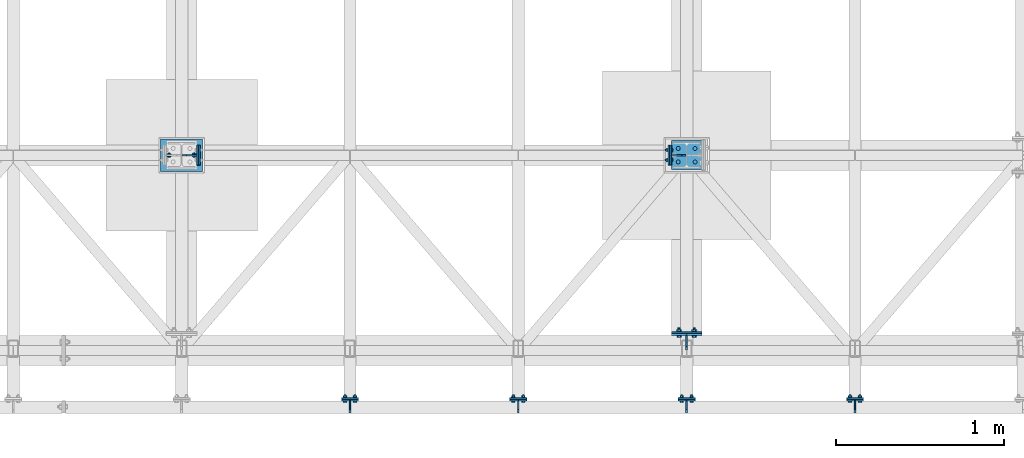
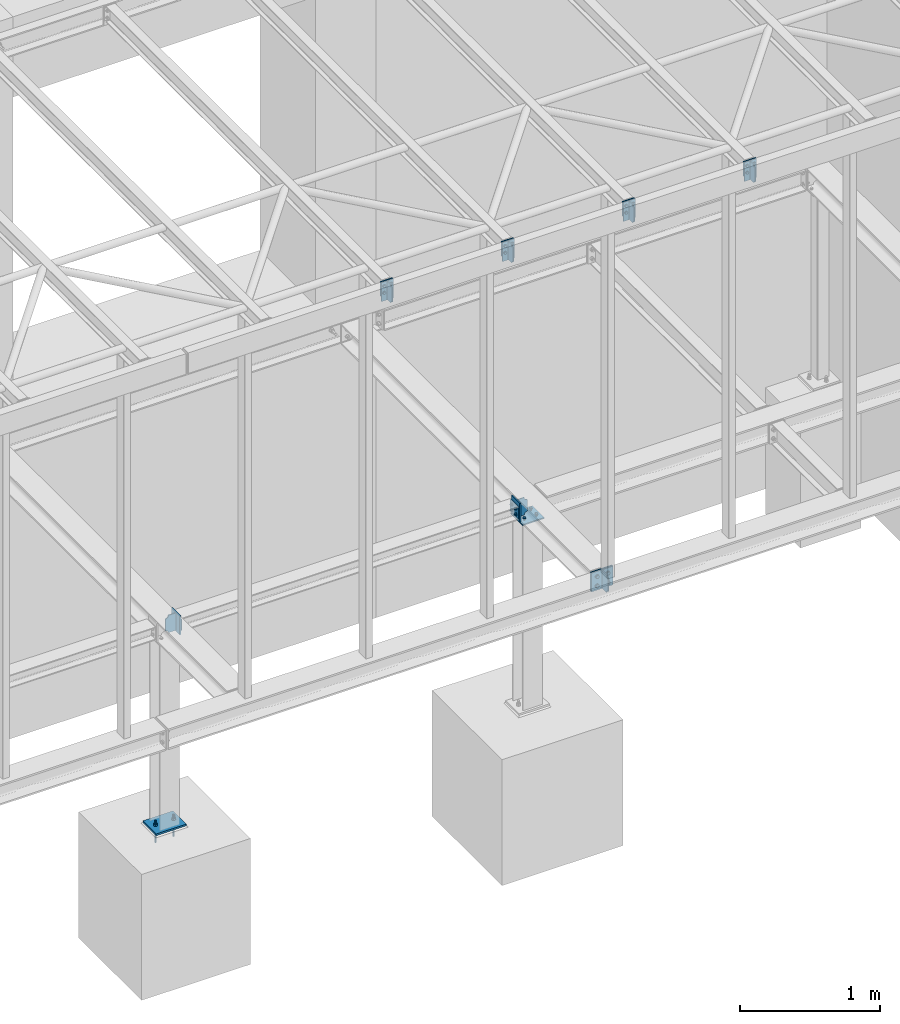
# One storey, part 17 of 23: 23 discrete accessories, 8 mechanical fasteners, 11 elements without a shape of their own.
"""IFC2X3 building model written with IfcOpenShell, lengths in millimetres."""

from ifc_helpers import new_model, si_unit, frame, frame_2d, origin_with_axes, origin_2d_with_axis, place, context, subcontext, project, spatial, polyline, circle_curve, parameter, trimmed, segment, composite_curve, circle, outline, extrude, source, transform, mapped, material, type_object, element, aggregate, save


model = new_model("IFC2X3")

# Units and contexts
model_context = context("Model", 3, precision=1e-05, world=origin_with_axes())
body_context = subcontext(model_context, "Body", "Model", "MODEL_VIEW")
ifc_project = project(units=[si_unit("LENGTHUNIT", "METRE", prefix="MILLI"), si_unit("AREAUNIT", "SQUARE_METRE"), si_unit("VOLUMEUNIT", "CUBIC_METRE"), si_unit("MASSUNIT", "GRAM", prefix="KILO"), si_unit("TIMEUNIT", "SECOND"), si_unit("PLANEANGLEUNIT", "RADIAN"), si_unit("SOLIDANGLEUNIT", "STERADIAN"), si_unit("THERMODYNAMICTEMPERATUREUNIT", "DEGREE_CELSIUS"), si_unit("LUMINOUSINTENSITYUNIT", "LUMEN")], contexts=[model_context])

# Site, building, storey
site_placement = place(None, origin_with_axes())
site = spatial("IfcSite", under=ifc_project, at=site_placement, Name="Undefined", CompositionType="ELEMENT")
building_placement = place(site_placement, origin_with_axes())
building = spatial("IfcBuilding", under=site, at=building_placement, Name="Undefined", CompositionType="ELEMENT")
storey_placement = place(building_placement, origin_with_axes())
storey = spatial("IfcBuildingStorey", under=building, at=storey_placement, Name="Undefined", CompositionType="ELEMENT", Elevation=0.0)

# Assembly, discrete accessory
assembly_1_placement = place(storey_placement, origin_with_axes())
assembly_1 = element("IfcElementAssembly", 1, at=assembly_1_placement, inside=storey, Name="Steel Assembly", AssemblyPlace="NOTDEFINED", PredefinedType="RIGID_FRAME")
ifc_material_1 = material(Name="STEEL/S235JR")
discrete_accessory_type_1 = type_object("IfcDiscreteAccessoryType", Name="PLECH")
discrete_accessory_1_placement = place(assembly_1_placement, frame((13050.0, -200.0, 3289.5), z_axis=(1.0, 0.0, 0.0), x_axis=(0.0, -1.0, 0.0)))
discrete_accessory_1 = element("IfcDiscreteAccessory", 2, at=discrete_accessory_1_placement, type_object=discrete_accessory_type_1, material=ifc_material_1, Name="PLECH", ObjectType="PL8*70", context=body_context, shape_type="SweptSolid", body=[
    extrude(outline(composite_curve([segment(polyline([(0.0, 0.0), (49.5, 0.0)]), True, "CONTINUOUS"), segment(trimmed(circle_curve(frame_2d((69.5, 0.0), x_axis=(-1.0, 0.0)), 20.0), [parameter(0.0)], [parameter(4.71238898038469)], False, "PARAMETER"), True, "CONTINUOUS"), segment(polyline([(69.5, 20.0), (69.5, 139.0)]), True, "CONTINUOUS"), segment(trimmed(circle_curve(frame_2d((69.5, 159.0), x_axis=(0.0, -1.0)), 20.0), [parameter(0.0)], [parameter(4.71238898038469)], False, "PARAMETER"), True, "CONTINUOUS"), segment(polyline([(49.5, 159.0), (0.0, 159.0), (0.0, 0.0)]), True, "DISCONTINUOUS")], self_intersect=False)), frame((0.0, 0.0, -4.0), z_axis=(0.0, 0.0, 1.0), x_axis=(1.0, 0.0, 0.0)), (0.0, 0.0, 1.0), 8.0),
])

assembly_2_placement = place(storey_placement, origin_with_axes())
assembly_2 = element("IfcElementAssembly", 3, at=assembly_2_placement, inside=storey, Name="Steel Assembly", AssemblyPlace="NOTDEFINED", PredefinedType="RIGID_FRAME")
discrete_accessory_2_placement = place(assembly_2_placement, frame((13000.0, -185.0, 3166.5), z_axis=(0.0, 1.0, 0.0), x_axis=(0.0, 0.0, 1.0)))
discrete_accessory_2 = element("IfcDiscreteAccessory", 4, at=discrete_accessory_2_placement, type_object=discrete_accessory_type_1, material=ifc_material_1, Name="PLECH", ObjectType="PL10*100", context=body_context, shape_type="SweptSolid", body=[
    extrude(outline(polyline([(0.0, 0.0), (127.0, 0.0), (127.0, 100.0), (-9.09494701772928e-13, 100.0), (0.0, 0.0)])), frame((0.0, 0.0, -5.0), z_axis=(0.0, 0.0, 1.0), x_axis=(1.0, 0.0, 0.0)), (0.0, 0.0, 1.0), 10.0),
])
aggregate(assembly_2, [discrete_accessory_2])

# Discrete accessory
discrete_accessory_3_placement = place(assembly_1_placement, frame((13000.0, -195.0, 3127.5), z_axis=(0.0, 1.0, 0.0), x_axis=(0.0, 0.0, 1.0)))
discrete_accessory_3 = element("IfcDiscreteAccessory", 5, at=discrete_accessory_3_placement, type_object=discrete_accessory_type_1, material=ifc_material_1, Name="PLECH", ObjectType="PL10*100", context=body_context, shape_type="SweptSolid", body=[
    extrude(outline(polyline([(0.0, 0.0), (166.000015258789, 0.0), (166.000015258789, 100.0), (-9.09494701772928e-13, 100.0), (0.0, 0.0)])), frame((0.0, 0.0, -5.0), z_axis=(0.0, 0.0, 1.0), x_axis=(1.0, 0.0, 0.0)), (0.0, 0.0, 1.0), 10.0),
])

discrete_accessory_4_placement = place(assembly_1_placement, frame((12050.0, -200.0, 3289.5), z_axis=(1.0, 0.0, 0.0), x_axis=(0.0, -1.0, 0.0)))
discrete_accessory_4 = element("IfcDiscreteAccessory", 6, at=discrete_accessory_4_placement, type_object=discrete_accessory_type_1, material=ifc_material_1, Name="PLECH", ObjectType="PL8*70", context=body_context, shape_type="SweptSolid", body=[
    extrude(outline(composite_curve([segment(polyline([(0.0, 0.0), (49.5, 0.0)]), True, "CONTINUOUS"), segment(trimmed(circle_curve(frame_2d((69.5, 0.0), x_axis=(-1.0, 0.0)), 20.0), [parameter(0.0)], [parameter(4.71238898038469)], False, "PARAMETER"), True, "CONTINUOUS"), segment(polyline([(69.5, 20.0), (69.5, 139.0)]), True, "CONTINUOUS"), segment(trimmed(circle_curve(frame_2d((69.5, 159.0), x_axis=(0.0, -1.0)), 20.0), [parameter(0.0)], [parameter(4.71238898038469)], False, "PARAMETER"), True, "CONTINUOUS"), segment(polyline([(49.5, 159.0), (0.0, 159.0), (0.0, 0.0)]), True, "DISCONTINUOUS")], self_intersect=False)), frame((0.0, 0.0, -4.0), z_axis=(0.0, 0.0, 1.0), x_axis=(1.0, 0.0, 0.0)), (0.0, 0.0, 1.0), 8.0),
])

# Assembly, discrete accessory
assembly_3_placement = place(storey_placement, origin_with_axes())
assembly_3 = element("IfcElementAssembly", 7, at=assembly_3_placement, inside=storey, Name="Steel Assembly", AssemblyPlace="NOTDEFINED", PredefinedType="RIGID_FRAME")
discrete_accessory_5_placement = place(assembly_3_placement, frame((12000.0, -185.0, 3166.5), z_axis=(0.0, 1.0, 0.0), x_axis=(0.0, 0.0, 1.0)))
discrete_accessory_5 = element("IfcDiscreteAccessory", 8, at=discrete_accessory_5_placement, type_object=discrete_accessory_type_1, material=ifc_material_1, Name="PLECH", ObjectType="PL10*100", context=body_context, shape_type="SweptSolid", body=[
    extrude(outline(polyline([(0.0, 0.0), (127.0, 0.0), (127.0, 100.0), (-9.09494701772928e-13, 100.0), (0.0, 0.0)])), frame((0.0, 0.0, -5.0), z_axis=(0.0, 0.0, 1.0), x_axis=(1.0, 0.0, 0.0)), (0.0, 0.0, 1.0), 10.0),
])
aggregate(assembly_3, [discrete_accessory_5])

# Discrete accessory
discrete_accessory_6_placement = place(assembly_1_placement, frame((12000.0, -195.0, 3127.5), z_axis=(0.0, 1.0, 0.0), x_axis=(0.0, 0.0, 1.0)))
discrete_accessory_6 = element("IfcDiscreteAccessory", 9, at=discrete_accessory_6_placement, type_object=discrete_accessory_type_1, material=ifc_material_1, Name="PLECH", ObjectType="PL10*100", context=body_context, shape_type="SweptSolid", body=[
    extrude(outline(polyline([(0.0, 0.0), (166.000015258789, 0.0), (166.000015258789, 100.0), (-9.09494701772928e-13, 100.0), (0.0, 0.0)])), frame((0.0, 0.0, -5.0), z_axis=(0.0, 0.0, 1.0), x_axis=(1.0, 0.0, 0.0)), (0.0, 0.0, 1.0), 10.0),
])

discrete_accessory_7_placement = place(assembly_1_placement, frame((11050.0, -200.0, 3289.5), z_axis=(1.0, 0.0, 0.0), x_axis=(0.0, -1.0, 0.0)))
discrete_accessory_7 = element("IfcDiscreteAccessory", 10, at=discrete_accessory_7_placement, type_object=discrete_accessory_type_1, material=ifc_material_1, Name="PLECH", ObjectType="PL8*70", context=body_context, shape_type="SweptSolid", body=[
    extrude(outline(composite_curve([segment(polyline([(0.0, 0.0), (49.5, 0.0)]), True, "CONTINUOUS"), segment(trimmed(circle_curve(frame_2d((69.5, 0.0), x_axis=(-1.0, 0.0)), 20.0), [parameter(0.0)], [parameter(4.71238898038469)], False, "PARAMETER"), True, "CONTINUOUS"), segment(polyline([(69.5, 20.0), (69.5, 139.0)]), True, "CONTINUOUS"), segment(trimmed(circle_curve(frame_2d((69.5, 159.0), x_axis=(0.0, -1.0)), 20.0), [parameter(0.0)], [parameter(4.71238898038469)], False, "PARAMETER"), True, "CONTINUOUS"), segment(polyline([(49.5, 159.0), (0.0, 159.0), (0.0, 0.0)]), True, "DISCONTINUOUS")], self_intersect=False)), frame((0.0, 0.0, -4.0), z_axis=(0.0, 0.0, 1.0), x_axis=(1.0, 0.0, 0.0)), (0.0, 0.0, 1.0), 8.0),
])

# Assembly, discrete accessory
assembly_4_placement = place(storey_placement, origin_with_axes())
assembly_4 = element("IfcElementAssembly", 11, at=assembly_4_placement, inside=storey, Name="Steel Assembly", AssemblyPlace="NOTDEFINED", PredefinedType="RIGID_FRAME")
discrete_accessory_8_placement = place(assembly_4_placement, frame((11000.0, -185.0, 3166.5), z_axis=(0.0, 1.0, 0.0), x_axis=(0.0, 0.0, 1.0)))
discrete_accessory_8 = element("IfcDiscreteAccessory", 12, at=discrete_accessory_8_placement, type_object=discrete_accessory_type_1, material=ifc_material_1, Name="PLECH", ObjectType="PL10*100", context=body_context, shape_type="SweptSolid", body=[
    extrude(outline(polyline([(0.0, 0.0), (127.0, 0.0), (127.0, 100.0), (-9.09494701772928e-13, 100.0), (0.0, 0.0)])), frame((0.0, 0.0, -5.0), z_axis=(0.0, 0.0, 1.0), x_axis=(1.0, 0.0, 0.0)), (0.0, 0.0, 1.0), 10.0),
])
aggregate(assembly_4, [discrete_accessory_8])

# Discrete accessory
discrete_accessory_9_placement = place(assembly_1_placement, frame((11000.0, -195.0, 3127.5), z_axis=(0.0, 1.0, 0.0), x_axis=(0.0, 0.0, 1.0)))
discrete_accessory_9 = element("IfcDiscreteAccessory", 13, at=discrete_accessory_9_placement, type_object=discrete_accessory_type_1, material=ifc_material_1, Name="PLECH", ObjectType="PL10*100", context=body_context, shape_type="SweptSolid", body=[
    extrude(outline(polyline([(0.0, 0.0), (166.000015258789, 0.0), (166.000015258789, 100.0), (-9.09494701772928e-13, 100.0), (0.0, 0.0)])), frame((0.0, 0.0, -5.0), z_axis=(0.0, 0.0, 1.0), x_axis=(1.0, 0.0, 0.0)), (0.0, 0.0, 1.0), 10.0),
])

discrete_accessory_10_placement = place(assembly_1_placement, frame((10050.0, -200.0, 3289.5), z_axis=(1.0, 0.0, 0.0), x_axis=(0.0, -1.0, 0.0)))
discrete_accessory_10 = element("IfcDiscreteAccessory", 14, at=discrete_accessory_10_placement, type_object=discrete_accessory_type_1, material=ifc_material_1, Name="PLECH", ObjectType="PL8*70", context=body_context, shape_type="SweptSolid", body=[
    extrude(outline(composite_curve([segment(polyline([(0.0, 0.0), (49.5, 0.0)]), True, "CONTINUOUS"), segment(trimmed(circle_curve(frame_2d((69.5, 0.0), x_axis=(-1.0, 0.0)), 20.0), [parameter(0.0)], [parameter(4.71238898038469)], False, "PARAMETER"), True, "CONTINUOUS"), segment(polyline([(69.5, 20.0), (69.5, 139.0)]), True, "CONTINUOUS"), segment(trimmed(circle_curve(frame_2d((69.5, 159.0), x_axis=(0.0, -1.0)), 20.0), [parameter(0.0)], [parameter(4.71238898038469)], False, "PARAMETER"), True, "CONTINUOUS"), segment(polyline([(49.5, 159.0), (0.0, 159.0), (0.0, 0.0)]), True, "DISCONTINUOUS")], self_intersect=False)), frame((0.0, 0.0, -4.0), z_axis=(0.0, 0.0, 1.0), x_axis=(1.0, 0.0, 0.0)), (0.0, 0.0, 1.0), 8.0),
])

# Assembly, discrete accessory
assembly_5_placement = place(storey_placement, origin_with_axes())
assembly_5 = element("IfcElementAssembly", 15, at=assembly_5_placement, inside=storey, Name="Steel Assembly", AssemblyPlace="NOTDEFINED", PredefinedType="RIGID_FRAME")
discrete_accessory_11_placement = place(assembly_5_placement, frame((10000.0, -185.0, 3166.5), z_axis=(0.0, 1.0, 0.0), x_axis=(0.0, 0.0, 1.0)))
discrete_accessory_11 = element("IfcDiscreteAccessory", 16, at=discrete_accessory_11_placement, type_object=discrete_accessory_type_1, material=ifc_material_1, Name="PLECH", ObjectType="PL10*100", context=body_context, shape_type="SweptSolid", body=[
    extrude(outline(polyline([(0.0, 0.0), (127.0, 0.0), (127.0, 100.0), (-9.09494701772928e-13, 100.0), (0.0, 0.0)])), frame((0.0, 0.0, -5.0), z_axis=(0.0, 0.0, 1.0), x_axis=(1.0, 0.0, 0.0)), (0.0, 0.0, 1.0), 10.0),
])
aggregate(assembly_5, [discrete_accessory_11])

# Discrete accessory
discrete_accessory_12_placement = place(assembly_1_placement, frame((10000.0, -195.0, 3127.5), z_axis=(0.0, 1.0, 0.0), x_axis=(0.0, 0.0, 1.0)))
discrete_accessory_12 = element("IfcDiscreteAccessory", 17, at=discrete_accessory_12_placement, type_object=discrete_accessory_type_1, material=ifc_material_1, Name="PLECH", ObjectType="PL10*100", context=body_context, shape_type="SweptSolid", body=[
    extrude(outline(polyline([(0.0, 0.0), (166.000015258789, 0.0), (166.000015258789, 100.0), (-9.09494701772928e-13, 100.0), (0.0, 0.0)])), frame((0.0, 0.0, -5.0), z_axis=(0.0, 0.0, 1.0), x_axis=(1.0, 0.0, 0.0)), (0.0, 0.0, 1.0), 10.0),
])

# Assembly, discrete accessory
assembly_6_placement = place(storey_placement, origin_with_axes())
assembly_6 = element("IfcElementAssembly", 18, at=assembly_6_placement, inside=storey, Name="Steel Assembly", AssemblyPlace="NOTDEFINED", PredefinedType="RIGID_FRAME")
discrete_accessory_13_placement = place(assembly_6_placement, frame((12140.0, 1346.0, -345.0), z_axis=(0.0, 0.0, 1.0), x_axis=(-1.0, 0.0, 0.0)))
discrete_accessory_13 = element("IfcDiscreteAccessory", 19, at=discrete_accessory_13_placement, type_object=discrete_accessory_type_1, material=ifc_material_1, Name="PLECH", ObjectType="PL10*172", context=body_context, shape_type="SweptSolid", body=[
    extrude(outline(polyline([(0.0, 0.0), (180.0, 0.0), (180.0, 172.0), (0.0, 172.0), (0.0, 0.0)])), frame((0.0, 0.0, -5.0), z_axis=(0.0, 0.0, 1.0), x_axis=(1.0, 0.0, 0.0)), (0.0, 0.0, 1.0), 10.0),
])

# Assembly, discrete accessories
assembly_7_placement = place(storey_placement, origin_with_axes())
assembly_7 = element("IfcElementAssembly", 20, at=assembly_7_placement, inside=storey, Name="Steel Assembly", AssemblyPlace="NOTDEFINED", PredefinedType="RIGID_FRAME")
discrete_accessory_14_placement = place(assembly_7_placement, frame((11960.0, 195.0, -168.0), z_axis=(0.0, 1.0, 0.0), x_axis=(1.0, 0.0, 0.0)))
discrete_accessory_14 = element("IfcDiscreteAccessory", 21, at=discrete_accessory_14_placement, type_object=discrete_accessory_type_1, material=ifc_material_1, Name="PLECH", ObjectType="PL10*164", context=body_context, shape_type="SweptSolid", body=[
    extrude(outline(polyline([(0.0, 0.0), (180.0, 0.0), (180.0, 164.0), (0.0, 164.0), (0.0, 0.0)])), frame((0.0, 0.0, -5.0), z_axis=(0.0, 0.0, 1.0), x_axis=(1.0, 0.0, 0.0)), (0.0, 0.0, 1.0), 10.0),
])
discrete_accessory_15_placement = place(assembly_7_placement, frame((12050.0, 190.0, -174.0), z_axis=(1.0, 0.0, 0.0), x_axis=(0.0, -1.0, 0.0)))
discrete_accessory_15 = element("IfcDiscreteAccessory", 22, at=discrete_accessory_15_placement, type_object=discrete_accessory_type_1, material=ifc_material_1, Name="PLECH", ObjectType="PL8*86", context=body_context, shape_type="SweptSolid", body=[
    extrude(outline(composite_curve([segment(polyline([(0.0, 0.0), (65.75, 0.0)]), True, "CONTINUOUS"), segment(trimmed(circle_curve(frame_2d((85.75, 0.0), x_axis=(-1.0, 0.0)), 20.0), [parameter(0.0)], [parameter(4.71238898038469)], False, "PARAMETER"), True, "CONTINUOUS"), segment(polyline([(85.75, 20.0), (85.75, 132.0)]), True, "CONTINUOUS"), segment(trimmed(circle_curve(frame_2d((85.75, 152.0), x_axis=(0.0, -1.0)), 20.0), [parameter(0.0)], [parameter(4.71238898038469)], False, "PARAMETER"), True, "CONTINUOUS"), segment(polyline([(65.75, 152.0), (0.0, 152.0), (0.0, 0.0)]), True, "DISCONTINUOUS")], self_intersect=False)), frame((0.0, 0.0, -4.0), z_axis=(0.0, 0.0, 1.0), x_axis=(1.0, 0.0, 0.0)), (0.0, 0.0, 1.0), 8.0),
])

assembly_8_placement = place(storey_placement, origin_with_axes())
assembly_8 = element("IfcElementAssembly", 23, at=assembly_8_placement, inside=storey, Name="Steel Assembly", AssemblyPlace="NOTDEFINED", PredefinedType="RIGID_FRAME")
discrete_accessory_16_placement = place(assembly_8_placement, frame((11960.0, 205.0, -168.0), z_axis=(0.0, 1.0, 0.0), x_axis=(1.0, 0.0, 0.0)))
discrete_accessory_16 = element("IfcDiscreteAccessory", 24, at=discrete_accessory_16_placement, type_object=discrete_accessory_type_1, material=ifc_material_1, Name="PLECH", ObjectType="PL10*164", context=body_context, shape_type="SweptSolid", body=[
    extrude(outline(polyline([(0.0, 0.0), (180.0, 0.0), (180.0, 164.0), (0.0, 164.0), (0.0, 0.0)])), frame((0.0, 0.0, -5.0), z_axis=(0.0, 0.0, 1.0), x_axis=(1.0, 0.0, 0.0)), (0.0, 0.0, 1.0), 10.0),
])
discrete_accessory_17_placement = place(assembly_8_placement, frame((11960.0, 1260.0, -174.0), z_axis=(0.0, 1.0, 0.0), x_axis=(1.0, 0.0, 0.0)))
discrete_accessory_17 = element("IfcDiscreteAccessory", 25, at=discrete_accessory_17_placement, type_object=discrete_accessory_type_1, material=ifc_material_1, Name="PLECH", ObjectType="PL8*86", context=body_context, shape_type="SweptSolid", body=[
    extrude(outline(composite_curve([segment(polyline([(0.0, 0.0), (60.5, 0.0)]), True, "CONTINUOUS"), segment(trimmed(circle_curve(frame_2d((85.5, 0.0), x_axis=(-1.0, 0.0)), 25.0), [parameter(0.0)], [parameter(4.71238898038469)], False, "PARAMETER"), True, "CONTINUOUS"), segment(polyline([(85.5, 25.0), (85.5, 127.0)]), True, "CONTINUOUS"), segment(trimmed(circle_curve(frame_2d((85.5, 152.0), x_axis=(0.0, -1.0)), 25.0), [parameter(0.0)], [parameter(4.71238898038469)], False, "PARAMETER"), True, "CONTINUOUS"), segment(polyline([(60.5, 152.0), (0.0, 152.0), (0.0, 0.0)]), True, "DISCONTINUOUS")], self_intersect=False)), frame((0.0, 0.0, -4.0), z_axis=(0.0, 0.0, 1.0), x_axis=(1.0, 0.0, 0.0)), (0.0, 0.0, 1.0), 8.0),
])

# Assembly, discrete accessory
assembly_9_placement = place(storey_placement, origin_with_axes())
assembly_9 = element("IfcElementAssembly", 26, at=assembly_9_placement, inside=storey, Name="Steel Assembly", AssemblyPlace="NOTDEFINED", PredefinedType="RIGID_FRAME")
discrete_accessory_18_placement = place(assembly_9_placement, frame((9155.0, 1200.0, -299.0), z_axis=(-1.0, 0.0, 0.0), x_axis=(0.0, 0.0, 1.0)))
discrete_accessory_18 = element("IfcDiscreteAccessory", 27, at=discrete_accessory_18_placement, type_object=discrete_accessory_type_1, material=ifc_material_1, Name="PLECH", ObjectType="PL10*98", context=body_context, shape_type="SweptSolid", body=[
    extrude(outline(polyline([(0.0, 0.0), (98.0, 4.54747350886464e-13), (98.0, 120.0), (0.0, 120.0), (0.0, 0.0)])), frame((0.0, 0.0, -5.0), z_axis=(0.0, 0.0, 1.0), x_axis=(1.0, 0.0, 0.0)), (0.0, 0.0, 1.0), 10.0),
])

# Assembly, discrete accessories
assembly_10_placement = place(storey_placement, origin_with_axes())
assembly_10 = element("IfcElementAssembly", 28, at=assembly_10_placement, inside=storey, Name="Steel Assembly", AssemblyPlace="NOTDEFINED", PredefinedType="RIGID_FRAME")
discrete_accessory_19_placement = place(assembly_10_placement, frame((9140.0, 1260.0, -174.0), z_axis=(0.0, -1.0, 0.0), x_axis=(-1.0, 0.0, 0.0)))
discrete_accessory_19 = element("IfcDiscreteAccessory", 29, at=discrete_accessory_19_placement, type_object=discrete_accessory_type_1, material=ifc_material_1, Name="PLECH", ObjectType="PL8*86", context=body_context, shape_type="SweptSolid", body=[
    extrude(outline(composite_curve([segment(polyline([(0.0, 0.0), (60.5, 0.0)]), True, "CONTINUOUS"), segment(trimmed(circle_curve(frame_2d((85.5, 0.0), x_axis=(-1.0, 0.0)), 25.0), [parameter(0.0)], [parameter(4.71238898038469)], False, "PARAMETER"), True, "CONTINUOUS"), segment(polyline([(85.5, 25.0), (85.5, 127.0)]), True, "CONTINUOUS"), segment(trimmed(circle_curve(frame_2d((85.5, 152.0), x_axis=(0.0, -1.0)), 25.0), [parameter(0.0)], [parameter(4.71238898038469)], False, "PARAMETER"), True, "CONTINUOUS"), segment(polyline([(60.5, 152.0), (0.0, 152.0), (0.0, 0.0)]), True, "DISCONTINUOUS")], self_intersect=False)), frame((0.0, 0.0, -4.0), z_axis=(0.0, 0.0, 1.0), x_axis=(1.0, 0.0, 0.0)), (0.0, 0.0, 1.0), 8.0),
])
discrete_accessory_20_placement = place(assembly_10_placement, frame((9145.0, 1200.0, -332.0), z_axis=(-1.0, 0.0, 0.0), x_axis=(0.0, 0.0, 1.0)))
discrete_accessory_20 = element("IfcDiscreteAccessory", 30, at=discrete_accessory_20_placement, type_object=discrete_accessory_type_1, material=ifc_material_1, Name="PLECH", ObjectType="PL10*120", context=body_context, shape_type="SweptSolid", body=[
    extrude(outline(polyline([(0.0, 0.0), (164.0, 4.54747350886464e-13), (164.0, 120.0), (0.0, 120.0), (0.0, 0.0)])), frame((0.0, 0.0, -5.0), z_axis=(0.0, 0.0, 1.0), x_axis=(1.0, 0.0, 0.0)), (0.0, 0.0, 1.0), 10.0),
])
aggregate(assembly_10, [discrete_accessory_19, discrete_accessory_20])

# Discrete accessory
discrete_accessory_21_placement = place(assembly_9_placement, frame((11945.0, 1200.0, -299.0), z_axis=(-1.0, 0.0, 0.0), x_axis=(0.0, 0.0, 1.0)))
discrete_accessory_21 = element("IfcDiscreteAccessory", 31, at=discrete_accessory_21_placement, type_object=discrete_accessory_type_1, material=ifc_material_1, Name="PLECH", ObjectType="PL10*98", context=body_context, shape_type="SweptSolid", body=[
    extrude(outline(polyline([(0.0, 0.0), (98.0, 4.54747350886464e-13), (98.0, 120.0), (0.0, 120.0), (0.0, 0.0)])), frame((0.0, 0.0, -5.0), z_axis=(0.0, 0.0, 1.0), x_axis=(1.0, 0.0, 0.0)), (0.0, 0.0, 1.0), 10.0),
])

aggregate(assembly_9, [discrete_accessory_18, discrete_accessory_21])

discrete_accessory_22_placement = place(assembly_8_placement, frame((11955.0, 1200.0, -332.0), z_axis=(-1.0, 0.0, 0.0), x_axis=(0.0, 0.0, 1.0)))
discrete_accessory_22 = element("IfcDiscreteAccessory", 32, at=discrete_accessory_22_placement, type_object=discrete_accessory_type_1, material=ifc_material_1, Name="PLECH", ObjectType="PL10*120", context=body_context, shape_type="SweptSolid", body=[
    extrude(outline(polyline([(0.0, 0.0), (164.0, 4.54747350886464e-13), (164.0, 120.0), (0.0, 120.0), (0.0, 0.0)])), frame((0.0, 0.0, -5.0), z_axis=(0.0, 0.0, 1.0), x_axis=(1.0, 0.0, 0.0)), (0.0, 0.0, 1.0), 10.0),
])

# Assembly, discrete accessory, mechanical fastener
assembly_11_placement = place(storey_placement, origin_with_axes())
assembly_11 = element("IfcElementAssembly", 33, at=assembly_11_placement, inside=storey, Name="Steel Assembly", AssemblyPlace="NOTDEFINED", PredefinedType="RIGID_FRAME")
discrete_accessory_23_placement = place(assembly_11_placement, frame((9175.0, 1356.0, -1982.5), z_axis=(0.0, 0.0, 1.0), x_axis=(-1.0, 0.0, 0.0)))
discrete_accessory_23 = element("IfcDiscreteAccessory", 34, at=discrete_accessory_23_placement, type_object=discrete_accessory_type_1, material=ifc_material_1, Name="PLECH", ObjectType="PL15*192", context=body_context, shape_type="SweptSolid", body=[
    extrude(outline(polyline([(0.0, 0.0), (250.0, 0.0), (250.0, 192.0), (0.0, 192.0), (0.0, 0.0)])), frame((0.0, 0.0, -7.5), z_axis=(0.0, 0.0, 1.0), x_axis=(1.0, 0.0, 0.0)), (0.0, 0.0, 1.0), 15.0),
])
ifc_material_2 = material(Name="Undefined")
discrete_accessory_type_2 = type_object("IfcDiscreteAccessoryType", Name="Bolt assembly")
shared_shape_1 = source(origin_with_axes(), body_context, "Body", "SweptSolid", [
    extrude(circle(Radius=9.0, at=origin_2d_with_axis()), frame((0.0, -15.0, 0.0), z_axis=(0.0, 1.0, 0.0), x_axis=(1.0, 0.0, 0.0)), (0.0, 0.0, 1.0), 15.1),
    extrude(outline(polyline([(7.73649338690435, 0.0), (3.86824669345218, 6.69999980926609), (-3.86824669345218, 6.69999980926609), (-7.73649338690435, 0.0), (-3.86824669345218, -6.69999980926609), (3.86824669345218, -6.69999980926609), (7.73649338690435, 0.0)])), frame((0.0, -147.0, 0.0), z_axis=(0.0, 1.0, 0.0), x_axis=(1.0, 0.0, 0.0)), (0.0, 0.0, 1.0), 132.0),
    extrude(circle(Radius=8.0, at=origin_2d_with_axis()), frame((0.0, -15.0, 0.0), z_axis=(0.0, 1.0, 0.0), x_axis=(1.0, 0.0, 0.0)), (0.0, 0.0, 1.0), 58.0),
    extrude(circle(Radius=15.0, at=origin_2d_with_axis()), frame((0.0, 0.0, 0.0), z_axis=(0.0, 1.0, 0.0), x_axis=(1.0, 0.0, 0.0)), (0.0, 0.0, 1.0), 3.0),
    extrude(outline(polyline([(15.4441197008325, 0.0), (7.72205985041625, 13.3750000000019), (-7.72205985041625, 13.3750000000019), (-15.4441197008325, 0.0), (-7.72205985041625, -13.3750000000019), (7.72205985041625, -13.3750000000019), (15.4441197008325, 0.0)])), frame((0.0, 3.0, 0.0), z_axis=(0.0, 1.0, 0.0), x_axis=(1.0, 0.0, 0.0)), (0.0, 0.0, 1.0), 13.0),
])
mechanical_fastener_1_placement = place(assembly_11_placement, frame((8975.0, 1260.0, -1975.0), z_axis=(0.0, -1.0, 0.0), x_axis=(1.0, 0.0, 0.0)))
mechanical_fastener_1 = element("IfcMechanicalFastener", 35, at=mechanical_fastener_1_placement, type_object=discrete_accessory_type_2, material=ifc_material_2, Name="Bolt assembly", NominalDiameter=16.0, NominalLength=58.0, context=body_context, shape_type="MappedRepresentation", body=[
    mapped(shared_shape_1, transform((0.0, 0.0, 0.0))),
    mapped(shared_shape_1, transform((150.0, 0.0, 0.0))),
])
aggregate(assembly_11, [mechanical_fastener_1, discrete_accessory_23])

# Mechanical fastener
shared_shape_2 = source(origin_with_axes(), body_context, "Body", "SweptSolid", [
    extrude(circle(Radius=9.0, at=origin_2d_with_axis()), frame((0.0, -0.1, 0.0), z_axis=(0.0, 1.0, 0.0), x_axis=(1.0, 0.0, 0.0)), (0.0, 0.0, 1.0), 10.1),
    extrude(circle(Radius=9.0, at=origin_2d_with_axis()), frame((0.0, -9.9, 0.0), z_axis=(0.0, 1.0, 0.0), x_axis=(1.0, 0.0, 0.0)), (0.0, 0.0, 1.0), 10.0),
    extrude(outline(polyline([(13.85640646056, 0.0), (6.92820323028, 12.0000000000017), (-6.92820323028, 12.0000000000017), (-13.85640646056, 0.0), (-6.92820323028, -12.0000000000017), (6.92820323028, -12.0000000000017), (13.85640646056, 0.0)])), frame((0.0, -23.0, 0.0), z_axis=(0.0, 1.0, 0.0), x_axis=(1.0, 0.0, 0.0)), (0.0, 0.0, 1.0), 10.0),
    extrude(circle(Radius=8.0, at=origin_2d_with_axis()), frame((0.0, -13.0, 0.0), z_axis=(0.0, 1.0, 0.0), x_axis=(1.0, 0.0, 0.0)), (0.0, 0.0, 1.0), 50.0),
    extrude(circle(Radius=15.0, at=origin_2d_with_axis()), frame((0.0, -13.0, 0.0), z_axis=(0.0, 1.0, 0.0), x_axis=(1.0, 0.0, 0.0)), (0.0, 0.0, 1.0), 3.0),
    extrude(circle(Radius=15.0, at=origin_2d_with_axis()), frame((0.0, 10.0, 0.0), z_axis=(0.0, 1.0, 0.0), x_axis=(1.0, 0.0, 0.0)), (0.0, 0.0, 1.0), 3.0),
    extrude(outline(polyline([(15.4441197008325, 0.0), (7.72205985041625, 13.3750000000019), (-7.72205985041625, 13.3750000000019), (-15.4441197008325, 0.0), (-7.72205985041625, -13.3750000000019), (7.72205985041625, -13.3750000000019), (15.4441197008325, 0.0)])), frame((0.0, 13.0, 0.0), z_axis=(0.0, 1.0, 0.0), x_axis=(1.0, 0.0, 0.0)), (0.0, 0.0, 1.0), 13.0),
])
mechanical_fastener_2_placement = place(assembly_7_placement, frame((12005.0, 200.0, -250.0), z_axis=(0.0, 0.0, 1.0), x_axis=(1.0, 0.0, 0.0)))
mechanical_fastener_2 = element("IfcMechanicalFastener", 36, at=mechanical_fastener_2_placement, type_object=discrete_accessory_type_2, material=ifc_material_2, Name="Bolt assembly", NominalDiameter=16.0, NominalLength=50.0, context=body_context, shape_type="MappedRepresentation", body=[
    mapped(shared_shape_2, transform((0.0, 0.0, -40.0))),
    mapped(shared_shape_2, transform((90.0, 0.0, -40.0))),
    mapped(shared_shape_2, transform((0.0, 0.0, 40.0))),
    mapped(shared_shape_2, transform((90.0, 0.0, 40.0))),
])

aggregate(assembly_7, [mechanical_fastener_2, discrete_accessory_14, discrete_accessory_15])

shared_shape_3 = source(origin_with_axes(), body_context, "Body", "SweptSolid", [
    extrude(circle(Radius=6.5, at=origin_2d_with_axis()), frame((0.0, -13.9, 0.0), z_axis=(0.0, 1.0, 0.0), x_axis=(1.0, 0.0, 0.0)), (0.0, 0.0, 1.0), 14.0),
    extrude(circle(Radius=6.5, at=origin_2d_with_axis()), frame((0.0, -0.1, 0.0), z_axis=(0.0, 1.0, 0.0), x_axis=(1.0, 0.0, 0.0)), (0.0, 0.0, 1.0), 10.1),
    extrude(outline(polyline([(10.39230484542, 0.0), (5.19615242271, 9.00000000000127), (-5.19615242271, 9.00000000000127), (-10.39230484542, 0.0), (-5.19615242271, -9.00000000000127), (5.19615242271, -9.00000000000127), (10.39230484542, 0.0)])), frame((0.0, -24.0, 0.0), z_axis=(0.0, 1.0, 0.0), x_axis=(1.0, 0.0, 0.0)), (0.0, 0.0, 1.0), 7.5),
    extrude(circle(Radius=6.0, at=origin_2d_with_axis()), frame((0.0, -16.5, 0.0), z_axis=(0.0, 1.0, 0.0), x_axis=(1.0, 0.0, 0.0)), (0.0, 0.0, 1.0), 45.0),
    extrude(circle(Radius=12.0, at=origin_2d_with_axis()), frame((0.0, -16.5, 0.0), z_axis=(0.0, 1.0, 0.0), x_axis=(1.0, 0.0, 0.0)), (0.0, 0.0, 1.0), 2.5),
    extrude(circle(Radius=12.0, at=origin_2d_with_axis()), frame((0.0, 10.0, 0.0), z_axis=(0.0, 1.0, 0.0), x_axis=(1.0, 0.0, 0.0)), (0.0, 0.0, 1.0), 2.5),
    extrude(outline(polyline([(10.96965511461, 0.0), (5.484827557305, 9.50000000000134), (-5.484827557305, 9.50000000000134), (-10.96965511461, 0.0), (-5.484827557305, -9.50000000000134), (5.484827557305, -9.50000000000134), (10.96965511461, 0.0)])), frame((0.0, 12.5, 0.0), z_axis=(0.0, 1.0, 0.0), x_axis=(1.0, 0.0, 0.0)), (0.0, 0.0, 1.0), 10.0),
])
mechanical_fastener_3_placement = place(assembly_6_placement, frame((12000.0, 1260.0, -340.0), z_axis=(0.0, 1.0, 0.0), x_axis=(1.0, 0.0, 0.0)))
mechanical_fastener_3 = element("IfcMechanicalFastener", 37, at=mechanical_fastener_3_placement, type_object=discrete_accessory_type_2, material=ifc_material_2, Name="Bolt assembly", NominalDiameter=12.0, NominalLength=45.0, context=body_context, shape_type="MappedRepresentation", body=[
    mapped(shared_shape_3, transform((0.0, 0.0, -40.0))),
    mapped(shared_shape_3, transform((100.0, 0.0, -40.0))),
    mapped(shared_shape_3, transform((0.0, 0.0, 40.0))),
    mapped(shared_shape_3, transform((100.0, 0.0, 40.0))),
])

aggregate(assembly_6, [mechanical_fastener_3, discrete_accessory_13])

shared_shape_4 = source(origin_with_axes(), body_context, "Body", "SweptSolid", [
    extrude(circle(Radius=6.5, at=origin_2d_with_axis()), frame((0.0, -0.1, 0.0), z_axis=(0.0, 1.0, 0.0), x_axis=(1.0, 0.0, 0.0)), (0.0, 0.0, 1.0), 10.1),
    extrude(circle(Radius=6.5, at=origin_2d_with_axis()), frame((0.0, -9.9, 0.0), z_axis=(0.0, 1.0, 0.0), x_axis=(1.0, 0.0, 0.0)), (0.0, 0.0, 1.0), 10.0),
    extrude(outline(polyline([(10.96965511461, 0.0), (5.484827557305, 9.50000000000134), (-5.484827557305, 9.50000000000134), (-10.96965511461, 0.0), (-5.484827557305, -9.50000000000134), (5.484827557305, -9.50000000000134), (10.96965511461, 0.0)])), frame((0.0, -20.0, 0.0), z_axis=(0.0, 1.0, 0.0), x_axis=(1.0, 0.0, 0.0)), (0.0, 0.0, 1.0), 7.5),
    extrude(circle(Radius=6.0, at=origin_2d_with_axis()), frame((0.0, -12.5, 0.0), z_axis=(0.0, 1.0, 0.0), x_axis=(1.0, 0.0, 0.0)), (0.0, 0.0, 1.0), 40.0),
    extrude(circle(Radius=12.0, at=origin_2d_with_axis()), frame((0.0, -12.5, 0.0), z_axis=(0.0, 1.0, 0.0), x_axis=(1.0, 0.0, 0.0)), (0.0, 0.0, 1.0), 2.5),
    extrude(circle(Radius=12.0, at=origin_2d_with_axis()), frame((0.0, 10.0, 0.0), z_axis=(0.0, 1.0, 0.0), x_axis=(1.0, 0.0, 0.0)), (0.0, 0.0, 1.0), 2.5),
    extrude(outline(polyline([(10.96965511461, 0.0), (5.484827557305, 9.50000000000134), (-5.484827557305, 9.50000000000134), (-10.96965511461, 0.0), (-5.484827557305, -9.50000000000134), (5.484827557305, -9.50000000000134), (10.96965511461, 0.0)])), frame((0.0, 12.5, 0.0), z_axis=(0.0, 1.0, 0.0), x_axis=(1.0, 0.0, 0.0)), (0.0, 0.0, 1.0), 10.0),
])
mechanical_fastener_4_placement = place(assembly_1_placement, frame((13020.0, -190.0, 3230.0), z_axis=(0.0, 0.0, 1.0), x_axis=(1.0, 0.0, 0.0)))
mechanical_fastener_4 = element("IfcMechanicalFastener", 38, at=mechanical_fastener_4_placement, type_object=discrete_accessory_type_2, material=ifc_material_2, Name="Bolt assembly", NominalDiameter=12.0, NominalLength=40.0, context=body_context, shape_type="MappedRepresentation", body=[
    mapped(shared_shape_4, transform((0.0, 0.0, 30.0))),
    mapped(shared_shape_4, transform((60.0, 0.0, 30.0))),
    mapped(shared_shape_4, transform((0.0, 0.0, -30.0))),
    mapped(shared_shape_4, transform((60.0, 0.0, -30.0))),
])

mechanical_fastener_5_placement = place(assembly_1_placement, frame((12020.0, -190.0, 3230.0), z_axis=(0.0, 0.0, 1.0), x_axis=(1.0, 0.0, 0.0)))
mechanical_fastener_5 = element("IfcMechanicalFastener", 39, at=mechanical_fastener_5_placement, type_object=discrete_accessory_type_2, material=ifc_material_2, Name="Bolt assembly", NominalDiameter=12.0, NominalLength=40.0, context=body_context, shape_type="MappedRepresentation", body=[
    mapped(shared_shape_4, transform((0.0, 0.0, 30.0))),
    mapped(shared_shape_4, transform((60.0, 0.0, 30.0))),
    mapped(shared_shape_4, transform((0.0, 0.0, -30.0))),
    mapped(shared_shape_4, transform((60.0, 0.0, -30.0))),
])

mechanical_fastener_6_placement = place(assembly_1_placement, frame((11020.0, -190.0, 3230.0), z_axis=(0.0, 0.0, 1.0), x_axis=(1.0, 0.0, 0.0)))
mechanical_fastener_6 = element("IfcMechanicalFastener", 40, at=mechanical_fastener_6_placement, type_object=discrete_accessory_type_2, material=ifc_material_2, Name="Bolt assembly", NominalDiameter=12.0, NominalLength=40.0, context=body_context, shape_type="MappedRepresentation", body=[
    mapped(shared_shape_4, transform((0.0, 0.0, 30.0))),
    mapped(shared_shape_4, transform((60.0, 0.0, 30.0))),
    mapped(shared_shape_4, transform((0.0, 0.0, -30.0))),
    mapped(shared_shape_4, transform((60.0, 0.0, -30.0))),
])

mechanical_fastener_7_placement = place(assembly_1_placement, frame((10020.0, -190.0, 3230.0), z_axis=(0.0, 0.0, 1.0), x_axis=(1.0, 0.0, 0.0)))
mechanical_fastener_7 = element("IfcMechanicalFastener", 41, at=mechanical_fastener_7_placement, type_object=discrete_accessory_type_2, material=ifc_material_2, Name="Bolt assembly", NominalDiameter=12.0, NominalLength=40.0, context=body_context, shape_type="MappedRepresentation", body=[
    mapped(shared_shape_4, transform((0.0, 0.0, 30.0))),
    mapped(shared_shape_4, transform((60.0, 0.0, 30.0))),
    mapped(shared_shape_4, transform((0.0, 0.0, -30.0))),
    mapped(shared_shape_4, transform((60.0, 0.0, -30.0))),
])

aggregate(assembly_1, [mechanical_fastener_4, discrete_accessory_1, discrete_accessory_3, mechanical_fastener_5, discrete_accessory_4, discrete_accessory_6, mechanical_fastener_6, discrete_accessory_7, discrete_accessory_9, mechanical_fastener_7, discrete_accessory_10, discrete_accessory_12])

shared_shape_5 = source(origin_with_axes(), body_context, "Body", "SweptSolid", [
    extrude(circle(Radius=6.5, at=origin_2d_with_axis()), frame((0.0, -4.1, 0.0), z_axis=(0.0, 1.0, 0.0), x_axis=(1.0, 0.0, 0.0)), (0.0, 0.0, 1.0), 10.1),
    extrude(circle(Radius=6.5, at=origin_2d_with_axis()), frame((0.0, -13.9, 0.0), z_axis=(0.0, 1.0, 0.0), x_axis=(1.0, 0.0, 0.0)), (0.0, 0.0, 1.0), 10.0),
    extrude(outline(polyline([(10.39230484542, 0.0), (5.19615242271, 9.00000000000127), (-5.19615242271, 9.00000000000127), (-10.39230484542, 0.0), (-5.19615242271, -9.00000000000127), (5.19615242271, -9.00000000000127), (10.39230484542, 0.0)])), frame((0.0, -24.0, 0.0), z_axis=(0.0, 1.0, 0.0), x_axis=(1.0, 0.0, 0.0)), (0.0, 0.0, 1.0), 7.5),
    extrude(circle(Radius=6.0, at=origin_2d_with_axis()), frame((0.0, -16.5, 0.0), z_axis=(0.0, 1.0, 0.0), x_axis=(1.0, 0.0, 0.0)), (0.0, 0.0, 1.0), 40.0),
    extrude(circle(Radius=12.0, at=origin_2d_with_axis()), frame((0.0, -16.5, 0.0), z_axis=(0.0, 1.0, 0.0), x_axis=(1.0, 0.0, 0.0)), (0.0, 0.0, 1.0), 2.5),
    extrude(circle(Radius=12.0, at=origin_2d_with_axis()), frame((0.0, 6.0, 0.0), z_axis=(0.0, 1.0, 0.0), x_axis=(1.0, 0.0, 0.0)), (0.0, 0.0, 1.0), 2.5),
    extrude(outline(polyline([(10.96965511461, 0.0), (5.484827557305, 9.50000000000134), (-5.484827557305, 9.50000000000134), (-10.96965511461, 0.0), (-5.484827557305, -9.50000000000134), (5.484827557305, -9.50000000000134), (10.96965511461, 0.0)])), frame((0.0, 8.5, 0.0), z_axis=(0.0, 1.0, 0.0), x_axis=(1.0, 0.0, 0.0)), (0.0, 0.0, 1.0), 10.0),
])
mechanical_fastener_8_placement = place(assembly_8_placement, frame((11946.0, 1260.0, -225.0), z_axis=(0.0, 1.0, 0.0), x_axis=(0.0, 0.0, -1.0)))
mechanical_fastener_8 = element("IfcMechanicalFastener", 42, at=mechanical_fastener_8_placement, type_object=discrete_accessory_type_2, material=ifc_material_2, Name="Bolt assembly", NominalDiameter=12.0, NominalLength=40.0, context=body_context, shape_type="MappedRepresentation", body=[
    mapped(shared_shape_5, transform((0.0, 0.0, -30.0))),
    mapped(shared_shape_5, transform((50.0, 0.0, -30.0))),
    mapped(shared_shape_5, transform((0.0, 0.0, 30.0))),
    mapped(shared_shape_5, transform((50.0, 0.0, 30.0))),
])

aggregate(assembly_8, [discrete_accessory_16, discrete_accessory_17, mechanical_fastener_8, discrete_accessory_22])

save(model, "model.ifc")
